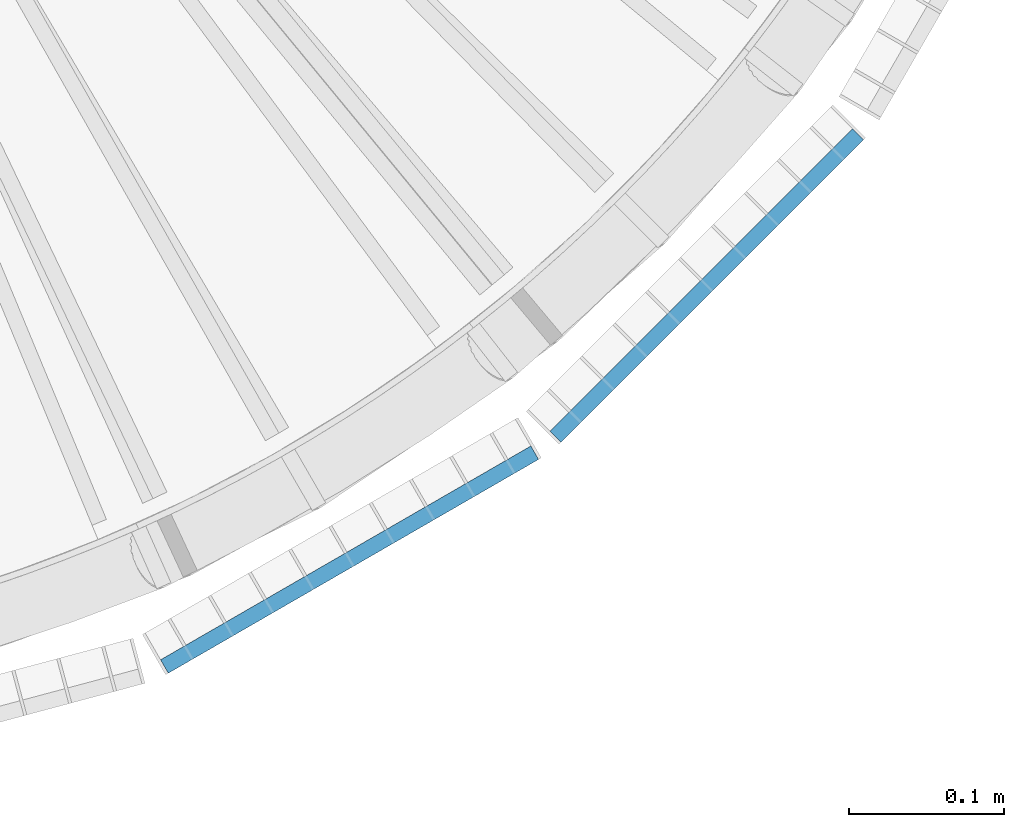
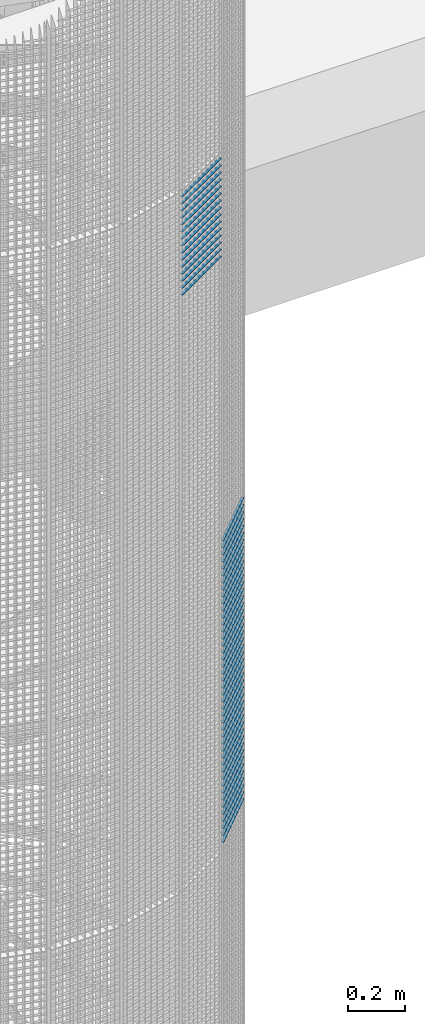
# One storey, part 244 of 1148: 59 beams, 2 elements without a shape of their own.
"""IFC2X3 building model written with IfcOpenShell, lengths in millimetres."""

import ifcopenshell
import ifcopenshell.guid

model = None  # the IFC model being written
_history = None  # IfcOwnerHistory: only IFC2X3 demands one
_inside = {}  # id of a spatial element -> (the spatial element, [elements in it])
_under = {}  # id of a project, library or spatial element -> (it, [spatial elements below it])
_declared = {}  # id of a project -> (the project, [libraries it declares])
_typed = {}  # id of a type object -> (the type object, [elements of that type])
_made_of = {}  # id of a material, layer set ... -> (it, [elements and type objects made of it])


def new_model(schema):
    """Start an empty IFC model of exactly this schema.

    Asked for "IFC4X3", IfcOpenShell would pick the latest addendum, in which some entities
    have other attributes; the version numbers below select the first issue.
    IFC2X3 requires an IfcOwnerHistory on every rooted entity: one is made here for all.
    """
    global model, _history
    if schema == "IFC4X3":
        model = ifcopenshell.file(schema_version=(4, 3, 0, 0))
    else:
        model = ifcopenshell.file(schema=schema)
    _inside.clear()
    _under.clear()
    _declared.clear()
    _typed.clear()
    _made_of.clear()
    _history = None
    if model.schema == "IFC2X3":
        org = make("IfcOrganization", Name="unknown")
        user = make(
            "IfcPersonAndOrganization",
            ThePerson=make("IfcPerson", FamilyName="unknown"),
            TheOrganization=org,
        )
        app = make(
            "IfcApplication",
            ApplicationDeveloper=org,
            Version="unknown",
            ApplicationFullName="unknown",
            ApplicationIdentifier="unknown",
        )
        _history = make(
            "IfcOwnerHistory",
            OwningUser=user,
            OwningApplication=app,
            ChangeAction="ADDED",
            CreationDate=0,
        )
    return model


def make(cls, **values):
    """One entity of the class cls with the attributes given. An attribute that is None is left unset."""
    return model.create_entity(
        cls, **{name: value for name, value in values.items() if value is not None}
    )


def rooted(cls, **values):
    """An entity with a GlobalId (a new one), such as an element, a storey or a relation."""
    return make(cls, GlobalId=ifcopenshell.guid.new(), OwnerHistory=_history, **values)


def si_unit(unit_type, name, prefix=None):
    """IfcSIUnit, for example si_unit("LENGTHUNIT", "METRE", prefix="MILLI")."""
    return make("IfcSIUnit", UnitType=unit_type, Prefix=prefix, Name=name)


def assignment(units):
    """IfcUnitAssignment: the units of a project."""
    return None if units is None else make("IfcUnitAssignment", Units=units)


def point(xyz):
    """IfcCartesianPoint."""
    return None if xyz is None else make("IfcCartesianPoint", Coordinates=xyz)


def direction(xyz):
    """IfcDirection."""
    return None if xyz is None else make("IfcDirection", DirectionRatios=xyz)


def frame(location, z_axis=None, x_axis=None):
    """IfcAxis2Placement3D, a coordinate frame: its origin and axes. An axis left out is left unset."""
    return make(
        "IfcAxis2Placement3D",
        Location=point(location),
        Axis=direction(z_axis),
        RefDirection=direction(x_axis),
    )


def frame_2d(location, x_axis=None):
    """IfcAxis2Placement2D, a coordinate frame in the plane: its origin and x axis."""
    return make(
        "IfcAxis2Placement2D", Location=point(location), RefDirection=direction(x_axis)
    )


def origin_with_axes():
    """The frame at (0, 0, 0) with the z axis (0, 0, 1) and the x axis (1, 0, 0) written out."""
    return frame((0.0, 0.0, 0.0), z_axis=(0.0, 0.0, 1.0), x_axis=(1.0, 0.0, 0.0))


def origin_2d_with_axis():
    """The frame at (0, 0) in the plane with the x axis (1, 0) written out."""
    return frame_2d((0.0, 0.0), x_axis=(1.0, 0.0))


def place(relative_to, where):
    """IfcLocalPlacement: puts the frame where relative to a parent placement (None: the world)."""
    return make(
        "IfcLocalPlacement", PlacementRelTo=relative_to, RelativePlacement=where
    )


def context(
    kind, dimensions, precision=None, world=None, true_north=None, identifier=None
):
    """IfcGeometricRepresentationContext, for example the 3D "Model" context."""
    return make(
        "IfcGeometricRepresentationContext",
        ContextIdentifier=identifier,
        ContextType=kind,
        CoordinateSpaceDimension=dimensions,
        Precision=precision,
        WorldCoordinateSystem=world,
        TrueNorth=true_north,
    )


def subcontext(parent, identifier, kind, view, scale=None):
    """IfcGeometricRepresentationSubContext, for example "Body" below "Model"."""
    return make(
        "IfcGeometricRepresentationSubContext",
        ContextIdentifier=identifier,
        ContextType=kind,
        ParentContext=parent,
        TargetScale=scale,
        TargetView=view,
    )


def project(units=None, contexts=None):
    """IfcProject with its units and contexts."""
    return rooted(
        "IfcProject",
        Name="project",
        RepresentationContexts=contexts,
        UnitsInContext=assignment(units),
    )


def spatial(cls, under=None, at=None, **own):
    """A site, building, storey or space (cls), placed at a placement, below another one or the project."""
    s = rooted(cls, ObjectPlacement=at, **own)
    if under is not None:
        _under.setdefault(under.id(), (under, []))[1].append(s)
    return s


def profile(cls, at=None, kind="AREA", **sizes):
    """A parametric profile (cls). Its sizes go by their IFC names, for example OverallWidth=200.0."""
    return make(cls, ProfileType=kind, Position=at, **sizes)


def rectangle(**sizes):
    """IfcRectangleProfileDef."""
    return profile("IfcRectangleProfileDef", **sizes)


def extrude(swept, where, along, depth):
    """IfcExtrudedAreaSolid: the profile swept, set in the frame where, extruded along a direction by depth."""
    return make(
        "IfcExtrudedAreaSolid",
        SweptArea=swept,
        Position=where,
        ExtrudedDirection=direction(along),
        Depth=depth,
    )


def shape(context_of_items, identifier, shape_type, items):
    """IfcShapeRepresentation: the items that make up one representation, for example the "Body"."""
    return make(
        "IfcShapeRepresentation",
        ContextOfItems=context_of_items,
        RepresentationIdentifier=identifier,
        RepresentationType=shape_type,
        Items=items,
    )


def material(Name=None, Category=None):
    """IfcMaterial."""
    return make("IfcMaterial", Name=Name, Category=Category)


def made_of(thing, what):
    """Note that an element or type object is made of a material, layer set ...; save() writes the relation."""
    if what is not None:
        _made_of.setdefault(what.id(), (what, []))[1].append(thing)
    return thing


def type_object(cls, material=None, **own):
    """A type object (cls), such as IfcWallType, which elements share."""
    return made_of(rooted(cls, **own), material)


def element(
    cls,
    number,
    at=None,
    inside=None,
    cuts=None,
    type_object=None,
    material=None,
    context=None,
    identifier="Body",
    shape_type=None,
    held_by="IfcProductDefinitionShape",
    body=None,
    shapes=None,
    **own,
):
    """One element of the class cls, such as IfcWall. Its Tag is "e" and its number.

    at: its placement. inside: the storey or other place that contains it. cuts: it is an
    opening in that element (IfcRelVoidsElement). A single representation is given by context,
    identifier, shape_type and body (its items); several are given by shapes. held_by: the class
    of the entity that holds the representations. save() writes the other relations.
    """
    e = rooted(cls, Tag="e%d" % number, ObjectPlacement=at, **own)
    if body is not None:
        shapes = [shape(context, identifier, shape_type, body)]
    if shapes is not None:
        e.Representation = make(held_by, Representations=shapes)
    if inside is not None:
        _inside.setdefault(inside.id(), (inside, []))[1].append(e)
    if cuts is not None:
        rooted(
            "IfcRelVoidsElement", RelatingBuildingElement=cuts, RelatedOpeningElement=e
        )
    if type_object is not None:
        _typed.setdefault(type_object.id(), (type_object, []))[1].append(e)
    return made_of(e, material)


def aggregate(whole, parts):
    """IfcRelAggregates: a whole, such as a stair, and the parts it consists of."""
    return rooted("IfcRelAggregates", RelatingObject=whole, RelatedObjects=parts)


def save(model, path):
    """Write the relations noted so far, then the file.

    IfcRelAggregates (storeys below a building ...), IfcRelContainedInSpatialStructure (elements
    in a storey), IfcRelDefinesByType, IfcRelAssociatesMaterial and IfcRelDeclares: one each for
    every whole, place, type object, material and project.
    """
    for whole, parts in _under.values():
        aggregate(whole, parts)
    for where, things in _inside.values():
        rooted(
            "IfcRelContainedInSpatialStructure",
            RelatedElements=things,
            RelatingStructure=where,
        )
    for kind, things in _typed.values():
        rooted("IfcRelDefinesByType", RelatedObjects=things, RelatingType=kind)
    for what, things in _made_of.values():
        rooted("IfcRelAssociatesMaterial", RelatedObjects=things, RelatingMaterial=what)
    for by, libraries in _declared.values():
        rooted("IfcRelDeclares", RelatingContext=by, RelatedDefinitions=libraries)
    model.write(path)


model = new_model("IFC2X3")

# Units and contexts
model_context = context("Model", 3, precision=1e-05, world=origin_with_axes())
body_context = subcontext(model_context, "Body", "Model", "MODEL_VIEW")
ifc_project = project(units=[si_unit("LENGTHUNIT", "METRE", prefix="MILLI"), si_unit("AREAUNIT", "SQUARE_METRE"), si_unit("VOLUMEUNIT", "CUBIC_METRE"), si_unit("MASSUNIT", "GRAM", prefix="KILO"), si_unit("TIMEUNIT", "SECOND"), si_unit("PLANEANGLEUNIT", "RADIAN"), si_unit("SOLIDANGLEUNIT", "STERADIAN"), si_unit("THERMODYNAMICTEMPERATUREUNIT", "DEGREE_CELSIUS"), si_unit("LUMINOUSINTENSITYUNIT", "LUMEN")], contexts=[model_context])

# Site, building, storey
site_placement = place(None, origin_with_axes())
site = spatial("IfcSite", under=ifc_project, at=site_placement, Name="Undefined", CompositionType="ELEMENT")
building_placement = place(site_placement, origin_with_axes())
building = spatial("IfcBuilding", under=site, at=building_placement, Name="Undefined", CompositionType="ELEMENT")
storey_placement = place(building_placement, origin_with_axes())
storey = spatial("IfcBuildingStorey", under=building, at=storey_placement, Name="Undefined", CompositionType="ELEMENT", Elevation=0.0)

# Assembly, beams
assembly_1_placement = place(storey_placement, origin_with_axes())
assembly_1 = element("IfcElementAssembly", 1, at=assembly_1_placement, inside=storey, Name="BORDURE", AssemblyPlace="NOTDEFINED", PredefinedType="NOTDEFINED")
ifc_material = material(Name="STEEL/S235JR")
beam_type = type_object("IfcBeamType", Name="PL2*10", PredefinedType="NOTDEFINED")
beam_1_placement = place(assembly_1_placement, frame((689.771348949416, -884.927168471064, 7320.0), z_axis=(0.707106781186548, -0.707106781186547, 0.0), x_axis=(0.707106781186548, 0.707106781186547, 0.0)))
beam_1 = element("IfcBeam", 2, at=beam_1_placement, type_object=beam_type, material=ifc_material, Name="ENTRETOISE", context=body_context, shape_type="SweptSolid", body=[
    extrude(rectangle(XDim=2.0, YDim=10.0, at=origin_2d_with_axis()), frame((275.999999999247, 9.09494701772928e-13, 1.53210777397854e-14), z_axis=(-1.0, 0.0, 0.0), x_axis=(0.0, -1.0, 0.0)), (0.0, 0.0, 1.0), 276.0),
])
beam_2_placement = place(assembly_1_placement, frame((689.771348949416, -884.927168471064, 7290.0), z_axis=(0.707106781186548, -0.707106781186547, 0.0), x_axis=(0.707106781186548, 0.707106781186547, 0.0)))
beam_2 = element("IfcBeam", 3, at=beam_2_placement, type_object=beam_type, material=ifc_material, Name="ENTRETOISE", context=body_context, shape_type="SweptSolid", body=[
    extrude(rectangle(XDim=2.0, YDim=10.0, at=origin_2d_with_axis()), frame((275.999999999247, 9.09494701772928e-13, 1.53210777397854e-14), z_axis=(-1.0, 0.0, 0.0), x_axis=(0.0, -1.0, 0.0)), (0.0, 0.0, 1.0), 276.0),
])
beam_3_placement = place(assembly_1_placement, frame((689.771348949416, -884.927168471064, 7260.0), z_axis=(0.707106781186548, -0.707106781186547, 0.0), x_axis=(0.707106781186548, 0.707106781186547, 0.0)))
beam_3 = element("IfcBeam", 4, at=beam_3_placement, type_object=beam_type, material=ifc_material, Name="ENTRETOISE", context=body_context, shape_type="SweptSolid", body=[
    extrude(rectangle(XDim=2.0, YDim=10.0, at=origin_2d_with_axis()), frame((275.999999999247, 9.09494701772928e-13, 1.53210777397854e-14), z_axis=(-1.0, 0.0, 0.0), x_axis=(0.0, -1.0, 0.0)), (0.0, 0.0, 1.0), 276.0),
])
beam_4_placement = place(assembly_1_placement, frame((689.771348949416, -884.927168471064, 7230.0), z_axis=(0.707106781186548, -0.707106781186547, 0.0), x_axis=(0.707106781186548, 0.707106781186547, 0.0)))
beam_4 = element("IfcBeam", 5, at=beam_4_placement, type_object=beam_type, material=ifc_material, Name="ENTRETOISE", context=body_context, shape_type="SweptSolid", body=[
    extrude(rectangle(XDim=2.0, YDim=10.0, at=origin_2d_with_axis()), frame((275.999999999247, 9.09494701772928e-13, 1.53210777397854e-14), z_axis=(-1.0, 0.0, 0.0), x_axis=(0.0, -1.0, 0.0)), (0.0, 0.0, 1.0), 276.0),
])
beam_5_placement = place(assembly_1_placement, frame((689.771348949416, -884.927168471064, 7200.0), z_axis=(0.707106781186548, -0.707106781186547, 0.0), x_axis=(0.707106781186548, 0.707106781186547, 0.0)))
beam_5 = element("IfcBeam", 6, at=beam_5_placement, type_object=beam_type, material=ifc_material, Name="ENTRETOISE", context=body_context, shape_type="SweptSolid", body=[
    extrude(rectangle(XDim=2.0, YDim=10.0, at=origin_2d_with_axis()), frame((275.999999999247, 9.09494701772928e-13, 1.53210777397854e-14), z_axis=(-1.0, 0.0, 0.0), x_axis=(0.0, -1.0, 0.0)), (0.0, 0.0, 1.0), 276.0),
])
beam_6_placement = place(assembly_1_placement, frame((689.771348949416, -884.927168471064, 7170.0), z_axis=(0.707106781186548, -0.707106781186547, 0.0), x_axis=(0.707106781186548, 0.707106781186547, 0.0)))
beam_6 = element("IfcBeam", 7, at=beam_6_placement, type_object=beam_type, material=ifc_material, Name="ENTRETOISE", context=body_context, shape_type="SweptSolid", body=[
    extrude(rectangle(XDim=2.0, YDim=10.0, at=origin_2d_with_axis()), frame((275.999999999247, 9.09494701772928e-13, 1.53210777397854e-14), z_axis=(-1.0, 0.0, 0.0), x_axis=(0.0, -1.0, 0.0)), (0.0, 0.0, 1.0), 276.0),
])
beam_7_placement = place(assembly_1_placement, frame((689.771348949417, -884.927168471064, 7140.0), z_axis=(0.707106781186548, -0.707106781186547, 0.0), x_axis=(0.707106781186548, 0.707106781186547, 0.0)))
beam_7 = element("IfcBeam", 8, at=beam_7_placement, type_object=beam_type, material=ifc_material, Name="ENTRETOISE", context=body_context, shape_type="SweptSolid", body=[
    extrude(rectangle(XDim=2.0, YDim=10.0, at=origin_2d_with_axis()), frame((275.999999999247, 9.09494701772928e-13, 1.53210777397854e-14), z_axis=(-1.0, 0.0, 0.0), x_axis=(0.0, -1.0, 0.0)), (0.0, 0.0, 1.0), 276.0),
])
beam_8_placement = place(assembly_1_placement, frame((689.771348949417, -884.927168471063, 6720.0), z_axis=(0.707106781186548, -0.707106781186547, 0.0), x_axis=(0.707106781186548, 0.707106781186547, 0.0)))
beam_8 = element("IfcBeam", 9, at=beam_8_placement, type_object=beam_type, material=ifc_material, Name="ENTRETOISE", context=body_context, shape_type="SweptSolid", body=[
    extrude(rectangle(XDim=2.0, YDim=10.0, at=origin_2d_with_axis()), frame((275.999999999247, 9.09494701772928e-13, 1.53210777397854e-14), z_axis=(-1.0, 0.0, 0.0), x_axis=(0.0, -1.0, 0.0)), (0.0, 0.0, 1.0), 276.0),
])
beam_9_placement = place(assembly_1_placement, frame((689.771348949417, -884.927168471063, 6690.0), z_axis=(0.707106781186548, -0.707106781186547, 0.0), x_axis=(0.707106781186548, 0.707106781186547, 0.0)))
beam_9 = element("IfcBeam", 10, at=beam_9_placement, type_object=beam_type, material=ifc_material, Name="ENTRETOISE", context=body_context, shape_type="SweptSolid", body=[
    extrude(rectangle(XDim=2.0, YDim=10.0, at=origin_2d_with_axis()), frame((275.999999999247, 9.09494701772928e-13, 1.53210777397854e-14), z_axis=(-1.0, 0.0, 0.0), x_axis=(0.0, -1.0, 0.0)), (0.0, 0.0, 1.0), 276.0),
])
beam_10_placement = place(assembly_1_placement, frame((689.771348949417, -884.927168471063, 6750.0), z_axis=(0.707106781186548, -0.707106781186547, 0.0), x_axis=(0.707106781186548, 0.707106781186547, 0.0)))
beam_10 = element("IfcBeam", 11, at=beam_10_placement, type_object=beam_type, material=ifc_material, Name="ENTRETOISE", context=body_context, shape_type="SweptSolid", body=[
    extrude(rectangle(XDim=2.0, YDim=10.0, at=origin_2d_with_axis()), frame((275.999999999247, 9.09494701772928e-13, 1.53210777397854e-14), z_axis=(-1.0, 0.0, 0.0), x_axis=(0.0, -1.0, 0.0)), (0.0, 0.0, 1.0), 276.0),
])
beam_11_placement = place(assembly_1_placement, frame((689.771348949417, -884.927168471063, 6660.0), z_axis=(0.707106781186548, -0.707106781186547, 0.0), x_axis=(0.707106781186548, 0.707106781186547, 0.0)))
beam_11 = element("IfcBeam", 12, at=beam_11_placement, type_object=beam_type, material=ifc_material, Name="ENTRETOISE", context=body_context, shape_type="SweptSolid", body=[
    extrude(rectangle(XDim=2.0, YDim=10.0, at=origin_2d_with_axis()), frame((275.999999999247, 9.09494701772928e-13, 1.53210777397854e-14), z_axis=(-1.0, 0.0, 0.0), x_axis=(0.0, -1.0, 0.0)), (0.0, 0.0, 1.0), 276.0),
])
beam_12_placement = place(assembly_1_placement, frame((689.771348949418, -884.927168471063, 6630.0), z_axis=(0.707106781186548, -0.707106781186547, 0.0), x_axis=(0.707106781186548, 0.707106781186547, 0.0)))
beam_12 = element("IfcBeam", 13, at=beam_12_placement, type_object=beam_type, material=ifc_material, Name="ENTRETOISE", context=body_context, shape_type="SweptSolid", body=[
    extrude(rectangle(XDim=2.0, YDim=10.0, at=origin_2d_with_axis()), frame((275.999999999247, 9.09494701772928e-13, 1.53210777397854e-14), z_axis=(-1.0, 0.0, 0.0), x_axis=(0.0, -1.0, 0.0)), (0.0, 0.0, 1.0), 276.0),
])
beam_13_placement = place(assembly_1_placement, frame((689.771348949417, -884.927168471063, 6780.0), z_axis=(0.707106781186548, -0.707106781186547, 0.0), x_axis=(0.707106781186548, 0.707106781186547, 0.0)))
beam_13 = element("IfcBeam", 14, at=beam_13_placement, type_object=beam_type, material=ifc_material, Name="ENTRETOISE", context=body_context, shape_type="SweptSolid", body=[
    extrude(rectangle(XDim=2.0, YDim=10.0, at=origin_2d_with_axis()), frame((275.999999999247, 9.09494701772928e-13, 1.53210777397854e-14), z_axis=(-1.0, 0.0, 0.0), x_axis=(0.0, -1.0, 0.0)), (0.0, 0.0, 1.0), 276.0),
])
beam_14_placement = place(assembly_1_placement, frame((689.771348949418, -884.927168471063, 6600.0), z_axis=(0.707106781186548, -0.707106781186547, 0.0), x_axis=(0.707106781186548, 0.707106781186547, 0.0)))
beam_14 = element("IfcBeam", 15, at=beam_14_placement, type_object=beam_type, material=ifc_material, Name="ENTRETOISE", context=body_context, shape_type="SweptSolid", body=[
    extrude(rectangle(XDim=2.0, YDim=10.0, at=origin_2d_with_axis()), frame((275.999999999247, 9.09494701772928e-13, 1.53210777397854e-14), z_axis=(-1.0, 0.0, 0.0), x_axis=(0.0, -1.0, 0.0)), (0.0, 0.0, 1.0), 276.0),
])
beam_15_placement = place(assembly_1_placement, frame((689.771348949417, -884.927168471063, 6810.0), z_axis=(0.707106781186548, -0.707106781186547, 0.0), x_axis=(0.707106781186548, 0.707106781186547, 0.0)))
beam_15 = element("IfcBeam", 16, at=beam_15_placement, type_object=beam_type, material=ifc_material, Name="ENTRETOISE", context=body_context, shape_type="SweptSolid", body=[
    extrude(rectangle(XDim=2.0, YDim=10.0, at=origin_2d_with_axis()), frame((275.999999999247, 9.09494701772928e-13, 1.53210777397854e-14), z_axis=(-1.0, 0.0, 0.0), x_axis=(0.0, -1.0, 0.0)), (0.0, 0.0, 1.0), 276.0),
])
beam_16_placement = place(assembly_1_placement, frame((689.771348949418, -884.927168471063, 6570.0), z_axis=(0.707106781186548, -0.707106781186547, 0.0), x_axis=(0.707106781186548, 0.707106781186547, 0.0)))
beam_16 = element("IfcBeam", 17, at=beam_16_placement, type_object=beam_type, material=ifc_material, Name="ENTRETOISE", context=body_context, shape_type="SweptSolid", body=[
    extrude(rectangle(XDim=2.0, YDim=10.0, at=origin_2d_with_axis()), frame((275.999999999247, 9.09494701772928e-13, 1.53210777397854e-14), z_axis=(-1.0, 0.0, 0.0), x_axis=(0.0, -1.0, 0.0)), (0.0, 0.0, 1.0), 276.0),
])
beam_17_placement = place(assembly_1_placement, frame((689.771348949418, -884.927168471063, 6540.0), z_axis=(0.707106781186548, -0.707106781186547, 0.0), x_axis=(0.707106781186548, 0.707106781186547, 0.0)))
beam_17 = element("IfcBeam", 18, at=beam_17_placement, type_object=beam_type, material=ifc_material, Name="ENTRETOISE", context=body_context, shape_type="SweptSolid", body=[
    extrude(rectangle(XDim=2.0, YDim=10.0, at=origin_2d_with_axis()), frame((275.999999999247, 9.09494701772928e-13, 1.53210777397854e-14), z_axis=(-1.0, 0.0, 0.0), x_axis=(0.0, -1.0, 0.0)), (0.0, 0.0, 1.0), 276.0),
])
beam_18_placement = place(assembly_1_placement, frame((689.771348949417, -884.927168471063, 6840.0), z_axis=(0.707106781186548, -0.707106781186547, 0.0), x_axis=(0.707106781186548, 0.707106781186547, 0.0)))
beam_18 = element("IfcBeam", 19, at=beam_18_placement, type_object=beam_type, material=ifc_material, Name="ENTRETOISE", context=body_context, shape_type="SweptSolid", body=[
    extrude(rectangle(XDim=2.0, YDim=10.0, at=origin_2d_with_axis()), frame((275.999999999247, 9.09494701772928e-13, 1.53210777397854e-14), z_axis=(-1.0, 0.0, 0.0), x_axis=(0.0, -1.0, 0.0)), (0.0, 0.0, 1.0), 276.0),
])
beam_19_placement = place(assembly_1_placement, frame((689.771348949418, -884.927168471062, 6510.0), z_axis=(0.707106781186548, -0.707106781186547, 0.0), x_axis=(0.707106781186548, 0.707106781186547, 0.0)))
beam_19 = element("IfcBeam", 20, at=beam_19_placement, type_object=beam_type, material=ifc_material, Name="ENTRETOISE", context=body_context, shape_type="SweptSolid", body=[
    extrude(rectangle(XDim=2.0, YDim=10.0, at=origin_2d_with_axis()), frame((275.999999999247, 9.09494701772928e-13, 1.53210777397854e-14), z_axis=(-1.0, 0.0, 0.0), x_axis=(0.0, -1.0, 0.0)), (0.0, 0.0, 1.0), 276.0),
])
beam_20_placement = place(assembly_1_placement, frame((689.771348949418, -884.927168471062, 6480.0), z_axis=(0.707106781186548, -0.707106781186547, 0.0), x_axis=(0.707106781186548, 0.707106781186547, 0.0)))
beam_20 = element("IfcBeam", 21, at=beam_20_placement, type_object=beam_type, material=ifc_material, Name="ENTRETOISE", context=body_context, shape_type="SweptSolid", body=[
    extrude(rectangle(XDim=2.0, YDim=10.0, at=origin_2d_with_axis()), frame((275.999999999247, 9.09494701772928e-13, 1.53210777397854e-14), z_axis=(-1.0, 0.0, 0.0), x_axis=(0.0, -1.0, 0.0)), (0.0, 0.0, 1.0), 276.0),
])
beam_21_placement = place(assembly_1_placement, frame((689.771348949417, -884.927168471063, 6870.0), z_axis=(0.707106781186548, -0.707106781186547, 0.0), x_axis=(0.707106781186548, 0.707106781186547, 0.0)))
beam_21 = element("IfcBeam", 22, at=beam_21_placement, type_object=beam_type, material=ifc_material, Name="ENTRETOISE", context=body_context, shape_type="SweptSolid", body=[
    extrude(rectangle(XDim=2.0, YDim=10.0, at=origin_2d_with_axis()), frame((275.999999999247, 9.09494701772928e-13, 1.53210777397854e-14), z_axis=(-1.0, 0.0, 0.0), x_axis=(0.0, -1.0, 0.0)), (0.0, 0.0, 1.0), 276.0),
])
beam_22_placement = place(assembly_1_placement, frame((689.771348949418, -884.927168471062, 6450.0), z_axis=(0.707106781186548, -0.707106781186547, 0.0), x_axis=(0.707106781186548, 0.707106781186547, 0.0)))
beam_22 = element("IfcBeam", 23, at=beam_22_placement, type_object=beam_type, material=ifc_material, Name="ENTRETOISE", context=body_context, shape_type="SweptSolid", body=[
    extrude(rectangle(XDim=2.0, YDim=10.0, at=origin_2d_with_axis()), frame((275.999999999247, 9.09494701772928e-13, 1.53210777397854e-14), z_axis=(-1.0, 0.0, 0.0), x_axis=(0.0, -1.0, 0.0)), (0.0, 0.0, 1.0), 276.0),
])
beam_23_placement = place(assembly_1_placement, frame((689.771348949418, -884.927168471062, 6420.0), z_axis=(0.707106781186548, -0.707106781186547, 0.0), x_axis=(0.707106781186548, 0.707106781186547, 0.0)))
beam_23 = element("IfcBeam", 24, at=beam_23_placement, type_object=beam_type, material=ifc_material, Name="ENTRETOISE", context=body_context, shape_type="SweptSolid", body=[
    extrude(rectangle(XDim=2.0, YDim=10.0, at=origin_2d_with_axis()), frame((275.999999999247, 9.09494701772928e-13, 1.53210777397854e-14), z_axis=(-1.0, 0.0, 0.0), x_axis=(0.0, -1.0, 0.0)), (0.0, 0.0, 1.0), 276.0),
])
beam_24_placement = place(assembly_1_placement, frame((689.771348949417, -884.927168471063, 6900.0), z_axis=(0.707106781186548, -0.707106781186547, 0.0), x_axis=(0.707106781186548, 0.707106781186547, 0.0)))
beam_24 = element("IfcBeam", 25, at=beam_24_placement, type_object=beam_type, material=ifc_material, Name="ENTRETOISE", context=body_context, shape_type="SweptSolid", body=[
    extrude(rectangle(XDim=2.0, YDim=10.0, at=origin_2d_with_axis()), frame((275.999999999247, 9.09494701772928e-13, 1.53210777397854e-14), z_axis=(-1.0, 0.0, 0.0), x_axis=(0.0, -1.0, 0.0)), (0.0, 0.0, 1.0), 276.0),
])
beam_25_placement = place(assembly_1_placement, frame((689.771348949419, -884.927168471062, 6390.0), z_axis=(0.707106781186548, -0.707106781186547, 0.0), x_axis=(0.707106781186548, 0.707106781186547, 0.0)))
beam_25 = element("IfcBeam", 26, at=beam_25_placement, type_object=beam_type, material=ifc_material, Name="ENTRETOISE", context=body_context, shape_type="SweptSolid", body=[
    extrude(rectangle(XDim=2.0, YDim=10.0, at=origin_2d_with_axis()), frame((275.999999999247, 9.09494701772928e-13, 1.53210777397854e-14), z_axis=(-1.0, 0.0, 0.0), x_axis=(0.0, -1.0, 0.0)), (0.0, 0.0, 1.0), 276.0),
])
beam_26_placement = place(assembly_1_placement, frame((689.771348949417, -884.927168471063, 6930.0), z_axis=(0.707106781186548, -0.707106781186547, 0.0), x_axis=(0.707106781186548, 0.707106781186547, 0.0)))
beam_26 = element("IfcBeam", 27, at=beam_26_placement, type_object=beam_type, material=ifc_material, Name="ENTRETOISE", context=body_context, shape_type="SweptSolid", body=[
    extrude(rectangle(XDim=2.0, YDim=10.0, at=origin_2d_with_axis()), frame((275.999999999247, 9.09494701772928e-13, 1.53210777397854e-14), z_axis=(-1.0, 0.0, 0.0), x_axis=(0.0, -1.0, 0.0)), (0.0, 0.0, 1.0), 276.0),
])
beam_27_placement = place(assembly_1_placement, frame((689.771348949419, -884.927168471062, 6360.0), z_axis=(0.707106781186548, -0.707106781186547, 0.0), x_axis=(0.707106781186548, 0.707106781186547, 0.0)))
beam_27 = element("IfcBeam", 28, at=beam_27_placement, type_object=beam_type, material=ifc_material, Name="ENTRETOISE", context=body_context, shape_type="SweptSolid", body=[
    extrude(rectangle(XDim=2.0, YDim=10.0, at=origin_2d_with_axis()), frame((275.999999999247, 9.09494701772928e-13, 1.53210777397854e-14), z_axis=(-1.0, 0.0, 0.0), x_axis=(0.0, -1.0, 0.0)), (0.0, 0.0, 1.0), 276.0),
])
beam_28_placement = place(assembly_1_placement, frame((689.771348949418, -884.927168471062, 6330.0), z_axis=(0.707106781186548, -0.707106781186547, 0.0), x_axis=(0.707106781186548, 0.707106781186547, 0.0)))
beam_28 = element("IfcBeam", 29, at=beam_28_placement, type_object=beam_type, material=ifc_material, Name="ENTRETOISE", context=body_context, shape_type="SweptSolid", body=[
    extrude(rectangle(XDim=2.0, YDim=10.0, at=origin_2d_with_axis()), frame((275.999999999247, 9.09494701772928e-13, 1.53210777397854e-14), z_axis=(-1.0, 0.0, 0.0), x_axis=(0.0, -1.0, 0.0)), (0.0, 0.0, 1.0), 276.0),
])
beam_29_placement = place(assembly_1_placement, frame((689.771348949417, -884.927168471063, 6960.0), z_axis=(0.707106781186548, -0.707106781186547, 0.0), x_axis=(0.707106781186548, 0.707106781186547, 0.0)))
beam_29 = element("IfcBeam", 30, at=beam_29_placement, type_object=beam_type, material=ifc_material, Name="ENTRETOISE", context=body_context, shape_type="SweptSolid", body=[
    extrude(rectangle(XDim=2.0, YDim=10.0, at=origin_2d_with_axis()), frame((275.999999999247, 9.09494701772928e-13, 1.53210777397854e-14), z_axis=(-1.0, 0.0, 0.0), x_axis=(0.0, -1.0, 0.0)), (0.0, 0.0, 1.0), 276.0),
])
beam_30_placement = place(assembly_1_placement, frame((689.771348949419, -884.927168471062, 6300.0), z_axis=(0.707106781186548, -0.707106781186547, 0.0), x_axis=(0.707106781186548, 0.707106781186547, 0.0)))
beam_30 = element("IfcBeam", 31, at=beam_30_placement, type_object=beam_type, material=ifc_material, Name="ENTRETOISE", context=body_context, shape_type="SweptSolid", body=[
    extrude(rectangle(XDim=2.0, YDim=10.0, at=origin_2d_with_axis()), frame((275.999999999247, 9.09494701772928e-13, 1.53210777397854e-14), z_axis=(-1.0, 0.0, 0.0), x_axis=(0.0, -1.0, 0.0)), (0.0, 0.0, 1.0), 276.0),
])
beam_31_placement = place(assembly_1_placement, frame((689.771348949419, -884.927168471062, 6270.0), z_axis=(0.707106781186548, -0.707106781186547, 0.0), x_axis=(0.707106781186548, 0.707106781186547, 0.0)))
beam_31 = element("IfcBeam", 32, at=beam_31_placement, type_object=beam_type, material=ifc_material, Name="ENTRETOISE", context=body_context, shape_type="SweptSolid", body=[
    extrude(rectangle(XDim=2.0, YDim=10.0, at=origin_2d_with_axis()), frame((275.999999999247, 9.09494701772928e-13, 1.53210777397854e-14), z_axis=(-1.0, 0.0, 0.0), x_axis=(0.0, -1.0, 0.0)), (0.0, 0.0, 1.0), 276.0),
])
beam_32_placement = place(assembly_1_placement, frame((689.771348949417, -884.927168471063, 6990.0), z_axis=(0.707106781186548, -0.707106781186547, 0.0), x_axis=(0.707106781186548, 0.707106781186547, 0.0)))
beam_32 = element("IfcBeam", 33, at=beam_32_placement, type_object=beam_type, material=ifc_material, Name="ENTRETOISE", context=body_context, shape_type="SweptSolid", body=[
    extrude(rectangle(XDim=2.0, YDim=10.0, at=origin_2d_with_axis()), frame((275.999999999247, 9.09494701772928e-13, 1.53210777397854e-14), z_axis=(-1.0, 0.0, 0.0), x_axis=(0.0, -1.0, 0.0)), (0.0, 0.0, 1.0), 276.0),
])
beam_33_placement = place(assembly_1_placement, frame((689.771348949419, -884.927168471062, 6240.0), z_axis=(0.707106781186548, -0.707106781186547, 0.0), x_axis=(0.707106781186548, 0.707106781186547, 0.0)))
beam_33 = element("IfcBeam", 34, at=beam_33_placement, type_object=beam_type, material=ifc_material, Name="ENTRETOISE", context=body_context, shape_type="SweptSolid", body=[
    extrude(rectangle(XDim=2.0, YDim=10.0, at=origin_2d_with_axis()), frame((275.999999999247, 9.09494701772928e-13, 1.53210777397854e-14), z_axis=(-1.0, 0.0, 0.0), x_axis=(0.0, -1.0, 0.0)), (0.0, 0.0, 1.0), 276.0),
])
beam_34_placement = place(assembly_1_placement, frame((689.771348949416, -884.927168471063, 7020.0), z_axis=(0.707106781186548, -0.707106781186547, 0.0), x_axis=(0.707106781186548, 0.707106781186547, 0.0)))
beam_34 = element("IfcBeam", 35, at=beam_34_placement, type_object=beam_type, material=ifc_material, Name="ENTRETOISE", context=body_context, shape_type="SweptSolid", body=[
    extrude(rectangle(XDim=2.0, YDim=10.0, at=origin_2d_with_axis()), frame((275.999999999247, 9.09494701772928e-13, 1.53210777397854e-14), z_axis=(-1.0, 0.0, 0.0), x_axis=(0.0, -1.0, 0.0)), (0.0, 0.0, 1.0), 276.0),
])
beam_35_placement = place(assembly_1_placement, frame((689.771348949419, -884.927168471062, 6210.0), z_axis=(0.707106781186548, -0.707106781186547, 0.0), x_axis=(0.707106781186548, 0.707106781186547, 0.0)))
beam_35 = element("IfcBeam", 36, at=beam_35_placement, type_object=beam_type, material=ifc_material, Name="ENTRETOISE", context=body_context, shape_type="SweptSolid", body=[
    extrude(rectangle(XDim=2.0, YDim=10.0, at=origin_2d_with_axis()), frame((275.999999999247, 9.09494701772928e-13, 1.53210777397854e-14), z_axis=(-1.0, 0.0, 0.0), x_axis=(0.0, -1.0, 0.0)), (0.0, 0.0, 1.0), 276.0),
])
beam_36_placement = place(assembly_1_placement, frame((689.771348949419, -884.927168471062, 6180.0), z_axis=(0.707106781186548, -0.707106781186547, 0.0), x_axis=(0.707106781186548, 0.707106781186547, 0.0)))
beam_36 = element("IfcBeam", 37, at=beam_36_placement, type_object=beam_type, material=ifc_material, Name="ENTRETOISE", context=body_context, shape_type="SweptSolid", body=[
    extrude(rectangle(XDim=2.0, YDim=10.0, at=origin_2d_with_axis()), frame((275.999999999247, 9.09494701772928e-13, 1.53210777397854e-14), z_axis=(-1.0, 0.0, 0.0), x_axis=(0.0, -1.0, 0.0)), (0.0, 0.0, 1.0), 276.0),
])
beam_37_placement = place(assembly_1_placement, frame((689.771348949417, -884.927168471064, 7050.0), z_axis=(0.707106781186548, -0.707106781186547, 0.0), x_axis=(0.707106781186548, 0.707106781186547, 0.0)))
beam_37 = element("IfcBeam", 38, at=beam_37_placement, type_object=beam_type, material=ifc_material, Name="ENTRETOISE", context=body_context, shape_type="SweptSolid", body=[
    extrude(rectangle(XDim=2.0, YDim=10.0, at=origin_2d_with_axis()), frame((275.999999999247, 9.09494701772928e-13, 1.53210777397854e-14), z_axis=(-1.0, 0.0, 0.0), x_axis=(0.0, -1.0, 0.0)), (0.0, 0.0, 1.0), 276.0),
])
beam_38_placement = place(assembly_1_placement, frame((689.771348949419, -884.927168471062, 6150.0), z_axis=(0.707106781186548, -0.707106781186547, 0.0), x_axis=(0.707106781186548, 0.707106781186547, 0.0)))
beam_38 = element("IfcBeam", 39, at=beam_38_placement, type_object=beam_type, material=ifc_material, Name="ENTRETOISE", context=body_context, shape_type="SweptSolid", body=[
    extrude(rectangle(XDim=2.0, YDim=10.0, at=origin_2d_with_axis()), frame((275.999999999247, 9.09494701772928e-13, 1.53210777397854e-14), z_axis=(-1.0, 0.0, 0.0), x_axis=(0.0, -1.0, 0.0)), (0.0, 0.0, 1.0), 276.0),
])
beam_39_placement = place(assembly_1_placement, frame((689.771348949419, -884.927168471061, 6120.0), z_axis=(0.707106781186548, -0.707106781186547, 0.0), x_axis=(0.707106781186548, 0.707106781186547, 0.0)))
beam_39 = element("IfcBeam", 40, at=beam_39_placement, type_object=beam_type, material=ifc_material, Name="ENTRETOISE", context=body_context, shape_type="SweptSolid", body=[
    extrude(rectangle(XDim=2.0, YDim=10.0, at=origin_2d_with_axis()), frame((275.999999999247, 9.09494701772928e-13, 1.53210777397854e-14), z_axis=(-1.0, 0.0, 0.0), x_axis=(0.0, -1.0, 0.0)), (0.0, 0.0, 1.0), 276.0),
])
beam_40_placement = place(assembly_1_placement, frame((689.771348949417, -884.927168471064, 7080.0), z_axis=(0.707106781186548, -0.707106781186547, 0.0), x_axis=(0.707106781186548, 0.707106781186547, 0.0)))
beam_40 = element("IfcBeam", 41, at=beam_40_placement, type_object=beam_type, material=ifc_material, Name="ENTRETOISE", context=body_context, shape_type="SweptSolid", body=[
    extrude(rectangle(XDim=2.0, YDim=10.0, at=origin_2d_with_axis()), frame((275.999999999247, 9.09494701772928e-13, 1.53210777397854e-14), z_axis=(-1.0, 0.0, 0.0), x_axis=(0.0, -1.0, 0.0)), (0.0, 0.0, 1.0), 276.0),
])
beam_41_placement = place(assembly_1_placement, frame((689.771348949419, -884.927168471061, 6090.0), z_axis=(0.707106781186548, -0.707106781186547, 0.0), x_axis=(0.707106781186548, 0.707106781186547, 0.0)))
beam_41 = element("IfcBeam", 42, at=beam_41_placement, type_object=beam_type, material=ifc_material, Name="ENTRETOISE", context=body_context, shape_type="SweptSolid", body=[
    extrude(rectangle(XDim=2.0, YDim=10.0, at=origin_2d_with_axis()), frame((275.999999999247, 9.09494701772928e-13, 1.53210777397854e-14), z_axis=(-1.0, 0.0, 0.0), x_axis=(0.0, -1.0, 0.0)), (0.0, 0.0, 1.0), 276.0),
])
beam_42_placement = place(assembly_1_placement, frame((689.771348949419, -884.927168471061, 6060.0), z_axis=(0.707106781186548, -0.707106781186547, 0.0), x_axis=(0.707106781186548, 0.707106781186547, 0.0)))
beam_42 = element("IfcBeam", 43, at=beam_42_placement, type_object=beam_type, material=ifc_material, Name="ENTRETOISE", context=body_context, shape_type="SweptSolid", body=[
    extrude(rectangle(XDim=2.0, YDim=10.0, at=origin_2d_with_axis()), frame((275.999999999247, 9.09494701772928e-13, 1.53210777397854e-14), z_axis=(-1.0, 0.0, 0.0), x_axis=(0.0, -1.0, 0.0)), (0.0, 0.0, 1.0), 276.0),
])
beam_43_placement = place(assembly_1_placement, frame((689.771348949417, -884.927168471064, 7110.0), z_axis=(0.707106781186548, -0.707106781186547, 0.0), x_axis=(0.707106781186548, 0.707106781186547, 0.0)))
beam_43 = element("IfcBeam", 44, at=beam_43_placement, type_object=beam_type, material=ifc_material, Name="ENTRETOISE", context=body_context, shape_type="SweptSolid", body=[
    extrude(rectangle(XDim=2.0, YDim=10.0, at=origin_2d_with_axis()), frame((275.999999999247, 9.09494701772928e-13, 1.53210777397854e-14), z_axis=(-1.0, 0.0, 0.0), x_axis=(0.0, -1.0, 0.0)), (0.0, 0.0, 1.0), 276.0),
])
beam_44_placement = place(assembly_1_placement, frame((689.77134894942, -884.92716847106, 6030.0), z_axis=(0.707106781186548, -0.707106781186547, 0.0), x_axis=(0.707106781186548, 0.707106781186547, 0.0)))
beam_44 = element("IfcBeam", 45, at=beam_44_placement, type_object=beam_type, material=ifc_material, Name="ENTRETOISE", context=body_context, shape_type="SweptSolid", body=[
    extrude(rectangle(XDim=2.0, YDim=10.0, at=origin_2d_with_axis()), frame((275.999999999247, 9.09494701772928e-13, 1.53210777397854e-14), z_axis=(-1.0, 0.0, 0.0), x_axis=(0.0, -1.0, 0.0)), (0.0, 0.0, 1.0), 276.0),
])
aggregate(assembly_1, [beam_1, beam_2, beam_3, beam_4, beam_5, beam_6, beam_7, beam_8, beam_9, beam_10, beam_11, beam_12, beam_13, beam_14, beam_15, beam_16, beam_17, beam_18, beam_19, beam_20, beam_21, beam_22, beam_23, beam_24, beam_25, beam_26, beam_27, beam_28, beam_29, beam_30, beam_31, beam_32, beam_33, beam_34, beam_35, beam_36, beam_37, beam_38, beam_39, beam_40, beam_41, beam_42, beam_43, beam_44])

assembly_2_placement = place(storey_placement, origin_with_axes())
assembly_2 = element("IfcElementAssembly", 46, at=assembly_2_placement, inside=storey, Name="BORDURE", AssemblyPlace="NOTDEFINED", PredefinedType="NOTDEFINED")
beam_45_placement = place(assembly_2_placement, frame((437.231955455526, -1033.29996828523, 8970.0), z_axis=(0.499999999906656, -0.866025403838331, 0.0), x_axis=(0.866025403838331, 0.499999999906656, 0.0)))
beam_45 = element("IfcBeam", 47, at=beam_45_placement, type_object=beam_type, material=ifc_material, Name="ENTRETOISE", context=body_context, shape_type="SweptSolid", body=[
    extrude(rectangle(XDim=2.0, YDim=10.0, at=origin_2d_with_axis()), frame((275.999999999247, 9.09494701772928e-13, 1.53210777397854e-14), z_axis=(-1.0, 0.0, 0.0), x_axis=(0.0, -1.0, 0.0)), (0.0, 0.0, 1.0), 276.0),
])
beam_46_placement = place(assembly_2_placement, frame((437.231955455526, -1033.29996828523, 8940.0), z_axis=(0.499999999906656, -0.866025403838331, 0.0), x_axis=(0.866025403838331, 0.499999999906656, 0.0)))
beam_46 = element("IfcBeam", 48, at=beam_46_placement, type_object=beam_type, material=ifc_material, Name="ENTRETOISE", context=body_context, shape_type="SweptSolid", body=[
    extrude(rectangle(XDim=2.0, YDim=10.0, at=origin_2d_with_axis()), frame((275.999999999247, 9.09494701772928e-13, 1.53210777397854e-14), z_axis=(-1.0, 0.0, 0.0), x_axis=(0.0, -1.0, 0.0)), (0.0, 0.0, 1.0), 276.0),
])
beam_47_placement = place(assembly_2_placement, frame((437.231955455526, -1033.29996828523, 8910.0), z_axis=(0.499999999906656, -0.866025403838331, 0.0), x_axis=(0.866025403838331, 0.499999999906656, 0.0)))
beam_47 = element("IfcBeam", 49, at=beam_47_placement, type_object=beam_type, material=ifc_material, Name="ENTRETOISE", context=body_context, shape_type="SweptSolid", body=[
    extrude(rectangle(XDim=2.0, YDim=10.0, at=origin_2d_with_axis()), frame((275.999999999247, 9.09494701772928e-13, 1.53210777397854e-14), z_axis=(-1.0, 0.0, 0.0), x_axis=(0.0, -1.0, 0.0)), (0.0, 0.0, 1.0), 276.0),
])
beam_48_placement = place(assembly_2_placement, frame((437.231955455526, -1033.29996828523, 8880.0), z_axis=(0.499999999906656, -0.866025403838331, 0.0), x_axis=(0.866025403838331, 0.499999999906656, 0.0)))
beam_48 = element("IfcBeam", 50, at=beam_48_placement, type_object=beam_type, material=ifc_material, Name="ENTRETOISE", context=body_context, shape_type="SweptSolid", body=[
    extrude(rectangle(XDim=2.0, YDim=10.0, at=origin_2d_with_axis()), frame((275.999999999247, 9.09494701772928e-13, 1.53210777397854e-14), z_axis=(-1.0, 0.0, 0.0), x_axis=(0.0, -1.0, 0.0)), (0.0, 0.0, 1.0), 276.0),
])
beam_49_placement = place(assembly_2_placement, frame((437.231955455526, -1033.29996828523, 8850.0), z_axis=(0.499999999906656, -0.866025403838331, 0.0), x_axis=(0.866025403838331, 0.499999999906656, 0.0)))
beam_49 = element("IfcBeam", 51, at=beam_49_placement, type_object=beam_type, material=ifc_material, Name="ENTRETOISE", context=body_context, shape_type="SweptSolid", body=[
    extrude(rectangle(XDim=2.0, YDim=10.0, at=origin_2d_with_axis()), frame((275.999999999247, 9.09494701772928e-13, 1.53210777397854e-14), z_axis=(-1.0, 0.0, 0.0), x_axis=(0.0, -1.0, 0.0)), (0.0, 0.0, 1.0), 276.0),
])
beam_50_placement = place(assembly_2_placement, frame((437.231955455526, -1033.29996828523, 8820.0), z_axis=(0.499999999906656, -0.866025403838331, 0.0), x_axis=(0.866025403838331, 0.499999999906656, 0.0)))
beam_50 = element("IfcBeam", 52, at=beam_50_placement, type_object=beam_type, material=ifc_material, Name="ENTRETOISE", context=body_context, shape_type="SweptSolid", body=[
    extrude(rectangle(XDim=2.0, YDim=10.0, at=origin_2d_with_axis()), frame((275.999999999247, 9.09494701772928e-13, 1.53210777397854e-14), z_axis=(-1.0, 0.0, 0.0), x_axis=(0.0, -1.0, 0.0)), (0.0, 0.0, 1.0), 276.0),
])
beam_51_placement = place(assembly_2_placement, frame((437.231955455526, -1033.29996828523, 8790.0), z_axis=(0.499999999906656, -0.866025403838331, 0.0), x_axis=(0.866025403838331, 0.499999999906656, 0.0)))
beam_51 = element("IfcBeam", 53, at=beam_51_placement, type_object=beam_type, material=ifc_material, Name="ENTRETOISE", context=body_context, shape_type="SweptSolid", body=[
    extrude(rectangle(XDim=2.0, YDim=10.0, at=origin_2d_with_axis()), frame((275.999999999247, 9.09494701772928e-13, 1.53210777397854e-14), z_axis=(-1.0, 0.0, 0.0), x_axis=(0.0, -1.0, 0.0)), (0.0, 0.0, 1.0), 276.0),
])
beam_52_placement = place(assembly_2_placement, frame((437.231955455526, -1033.29996828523, 8760.0), z_axis=(0.499999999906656, -0.866025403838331, 0.0), x_axis=(0.866025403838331, 0.499999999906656, 0.0)))
beam_52 = element("IfcBeam", 54, at=beam_52_placement, type_object=beam_type, material=ifc_material, Name="ENTRETOISE", context=body_context, shape_type="SweptSolid", body=[
    extrude(rectangle(XDim=2.0, YDim=10.0, at=origin_2d_with_axis()), frame((275.999999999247, 9.09494701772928e-13, 1.53210777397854e-14), z_axis=(-1.0, 0.0, 0.0), x_axis=(0.0, -1.0, 0.0)), (0.0, 0.0, 1.0), 276.0),
])
beam_53_placement = place(assembly_2_placement, frame((437.231955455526, -1033.29996828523, 8730.0), z_axis=(0.499999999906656, -0.866025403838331, 0.0), x_axis=(0.866025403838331, 0.499999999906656, 0.0)))
beam_53 = element("IfcBeam", 55, at=beam_53_placement, type_object=beam_type, material=ifc_material, Name="ENTRETOISE", context=body_context, shape_type="SweptSolid", body=[
    extrude(rectangle(XDim=2.0, YDim=10.0, at=origin_2d_with_axis()), frame((275.999999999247, 9.09494701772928e-13, 1.53210777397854e-14), z_axis=(-1.0, 0.0, 0.0), x_axis=(0.0, -1.0, 0.0)), (0.0, 0.0, 1.0), 276.0),
])
beam_54_placement = place(assembly_2_placement, frame((437.231955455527, -1033.29996828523, 8700.0), z_axis=(0.499999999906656, -0.866025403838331, 0.0), x_axis=(0.866025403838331, 0.499999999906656, 0.0)))
beam_54 = element("IfcBeam", 56, at=beam_54_placement, type_object=beam_type, material=ifc_material, Name="ENTRETOISE", context=body_context, shape_type="SweptSolid", body=[
    extrude(rectangle(XDim=2.0, YDim=10.0, at=origin_2d_with_axis()), frame((275.999999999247, 9.09494701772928e-13, 1.53210777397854e-14), z_axis=(-1.0, 0.0, 0.0), x_axis=(0.0, -1.0, 0.0)), (0.0, 0.0, 1.0), 276.0),
])
beam_55_placement = place(assembly_2_placement, frame((437.231955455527, -1033.29996828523, 8670.0), z_axis=(0.499999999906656, -0.866025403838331, 0.0), x_axis=(0.866025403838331, 0.499999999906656, 0.0)))
beam_55 = element("IfcBeam", 57, at=beam_55_placement, type_object=beam_type, material=ifc_material, Name="ENTRETOISE", context=body_context, shape_type="SweptSolid", body=[
    extrude(rectangle(XDim=2.0, YDim=10.0, at=origin_2d_with_axis()), frame((275.999999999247, 9.09494701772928e-13, 1.53210777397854e-14), z_axis=(-1.0, 0.0, 0.0), x_axis=(0.0, -1.0, 0.0)), (0.0, 0.0, 1.0), 276.0),
])
beam_56_placement = place(assembly_2_placement, frame((437.231955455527, -1033.29996828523, 8640.0), z_axis=(0.499999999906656, -0.866025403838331, 0.0), x_axis=(0.866025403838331, 0.499999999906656, 0.0)))
beam_56 = element("IfcBeam", 58, at=beam_56_placement, type_object=beam_type, material=ifc_material, Name="ENTRETOISE", context=body_context, shape_type="SweptSolid", body=[
    extrude(rectangle(XDim=2.0, YDim=10.0, at=origin_2d_with_axis()), frame((275.999999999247, 9.09494701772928e-13, 1.53210777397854e-14), z_axis=(-1.0, 0.0, 0.0), x_axis=(0.0, -1.0, 0.0)), (0.0, 0.0, 1.0), 276.0),
])
beam_57_placement = place(assembly_2_placement, frame((437.231955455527, -1033.29996828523, 8610.0), z_axis=(0.499999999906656, -0.866025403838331, 0.0), x_axis=(0.866025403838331, 0.499999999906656, 0.0)))
beam_57 = element("IfcBeam", 59, at=beam_57_placement, type_object=beam_type, material=ifc_material, Name="ENTRETOISE", context=body_context, shape_type="SweptSolid", body=[
    extrude(rectangle(XDim=2.0, YDim=10.0, at=origin_2d_with_axis()), frame((275.999999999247, 9.09494701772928e-13, 1.53210777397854e-14), z_axis=(-1.0, 0.0, 0.0), x_axis=(0.0, -1.0, 0.0)), (0.0, 0.0, 1.0), 276.0),
])
beam_58_placement = place(assembly_2_placement, frame((437.231955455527, -1033.29996828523, 8580.0), z_axis=(0.499999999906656, -0.866025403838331, 0.0), x_axis=(0.866025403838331, 0.499999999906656, 0.0)))
beam_58 = element("IfcBeam", 60, at=beam_58_placement, type_object=beam_type, material=ifc_material, Name="ENTRETOISE", context=body_context, shape_type="SweptSolid", body=[
    extrude(rectangle(XDim=2.0, YDim=10.0, at=origin_2d_with_axis()), frame((275.999999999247, 9.09494701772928e-13, 1.53210777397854e-14), z_axis=(-1.0, 0.0, 0.0), x_axis=(0.0, -1.0, 0.0)), (0.0, 0.0, 1.0), 276.0),
])
beam_59_placement = place(assembly_2_placement, frame((437.231955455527, -1033.29996828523, 8550.0), z_axis=(0.499999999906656, -0.866025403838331, 0.0), x_axis=(0.866025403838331, 0.499999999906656, 0.0)))
beam_59 = element("IfcBeam", 61, at=beam_59_placement, type_object=beam_type, material=ifc_material, Name="ENTRETOISE", context=body_context, shape_type="SweptSolid", body=[
    extrude(rectangle(XDim=2.0, YDim=10.0, at=origin_2d_with_axis()), frame((275.999999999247, 9.09494701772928e-13, 1.53210777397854e-14), z_axis=(-1.0, 0.0, 0.0), x_axis=(0.0, -1.0, 0.0)), (0.0, 0.0, 1.0), 276.0),
])
aggregate(assembly_2, [beam_45, beam_46, beam_47, beam_48, beam_49, beam_50, beam_51, beam_52, beam_53, beam_54, beam_55, beam_56, beam_57, beam_58, beam_59])

save(model, "model.ifc")
